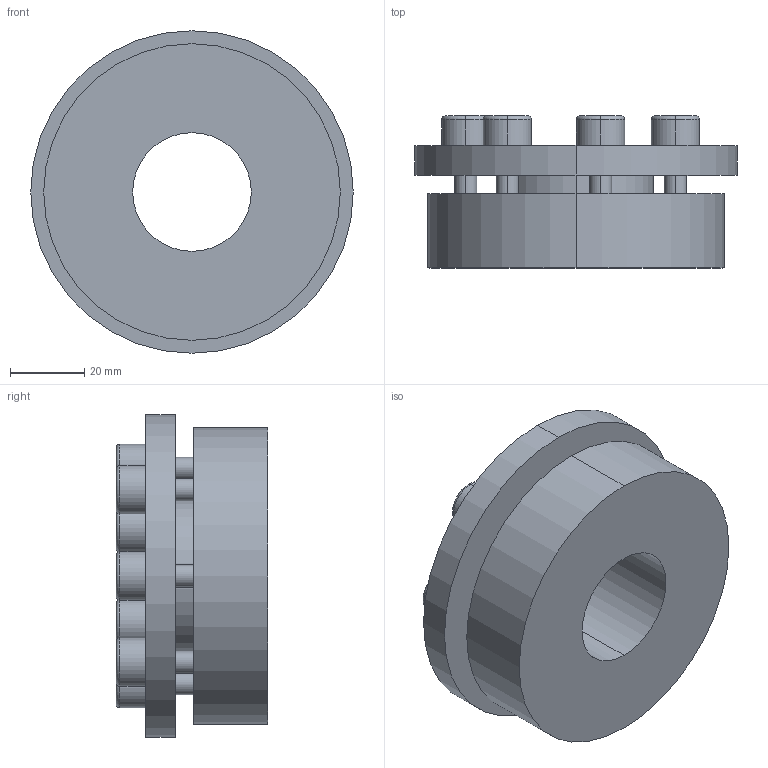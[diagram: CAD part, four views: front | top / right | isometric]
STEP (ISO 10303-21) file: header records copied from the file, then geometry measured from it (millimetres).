
FILE_DESCRIPTION (( 'STEP AP203' ), '1' );
FILE_NAME ('PL-H4 32-80.STEP', '2021-10-23T01:20:39', ( '' ), ( '' ), 'SwSTEP 2.0', 'SolidWorks 2018', '' );
FILE_SCHEMA (( 'CONFIG_CONTROL_DESIGN' ));
Length unit declared in the file: millimetre
Products named in the file (1): PL-H4 32-80
Bounding box: 87 x 41 x 87 mm (x, y, z)
Volume: 135834.5 mm3; surface area: 31806.8 mm2
Topology: 1 solids, 1 shells, 110 faces, 262 edges, 170 vertices
Faces by surface type: plane 60, cylinder 36, torus 14
Entity records: 3303 total; most frequent: DIRECTION 584, CARTESIAN_POINT 543, ORIENTED_EDGE 524, EDGE_CURVE 262, AXIS2_PLACEMENT_3D 211, VERTEX_POINT 170, VECTOR 162, LINE 162
